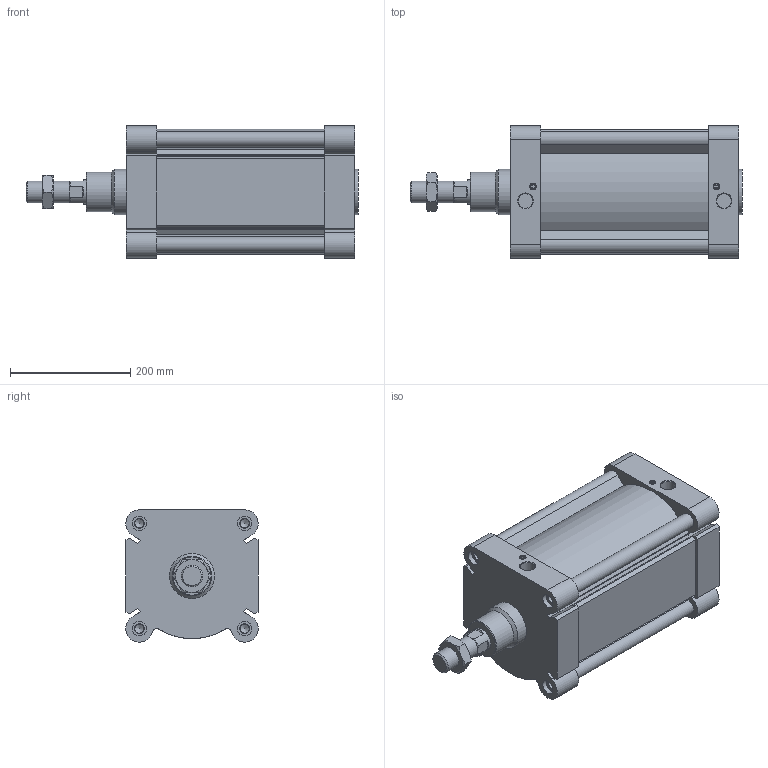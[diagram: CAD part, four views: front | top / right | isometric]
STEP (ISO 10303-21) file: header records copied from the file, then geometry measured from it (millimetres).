
FILE_DESCRIPTION(/* description */ ('STEP AP203'),/* implementation_level */ '2;1');
FILE_NAME(/* name */ 'SAI200X200+()+(0)+(00)',/* time_stamp */ '2025-03-26T13:34:30+01:00',/* author */ ('License CC BY-ND 4.0'),/* organization */ ('CADENAS'),/* preprocessor_version */ 'ST-DEVELOPER v19.3',/* originating_system */ 'PARTsolutions',/* authorisation */ ' ');
FILE_SCHEMA (('CONFIG_CONTROL_DESIGN'));
Length unit declared in the file: millimetre
Products named in the file (5): SAI200X200+()+(0)+(00); SAI200X200+()+(0)+(00)_dummy; SAI-200x200_body; SAI-200x200(0)_rod; SI-200-M36x2 - Nut
Assembly tree (4 placements, depth 2):
  SAI200X200+()+(0)+(00)
    SAI200X200+()+(0)+(00)_dummy
    SAI-200x200_body
    SAI-200x200(0)_rod
    SI-200-M36x2 - Nut
Bounding box: 552 x 220 x 220 mm (x, y, z)
Volume: 9539339.8 mm3; surface area: 933846.1 mm2
Topology: 3 solids, 3 shells, 259 faces, 639 edges, 408 vertices
Faces by surface type: plane 161, cylinder 55, cone 43
Full cylindrical faces by diameter (mm): 9.5 x2, 10 x2, 14.917 x8, 24 x8, 24.117 x2, 33.835 x1, 36 x1, 40 x2, 65.5 x1, 75 x2, 200 x2
Entity records: 7364 total; most frequent: CARTESIAN_POINT 1339, DIRECTION 1218, ORIENTED_EDGE 1136, EDGE_CURVE 568, AXIS2_PLACEMENT_3D 418, VERTEX_POINT 402, LINE 382, VECTOR 382
